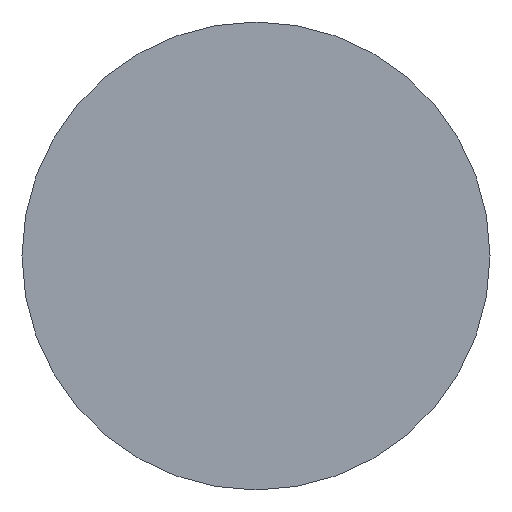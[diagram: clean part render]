
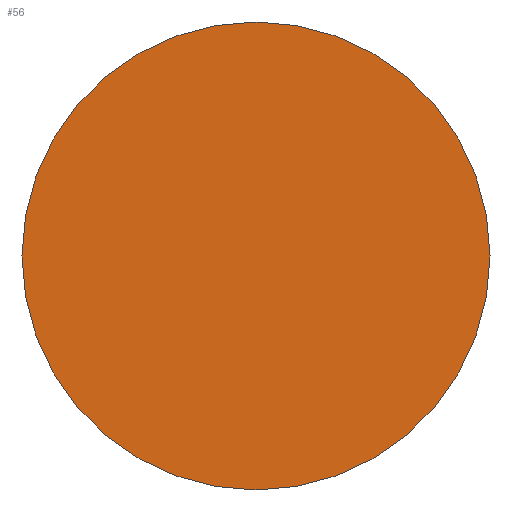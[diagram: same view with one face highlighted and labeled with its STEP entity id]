
A CAD part, top view. The second image highlights one B-rep face of the part: STEP entity #56.
In plain terms, the highlighted planar face has unit normal (0, 0, 1).
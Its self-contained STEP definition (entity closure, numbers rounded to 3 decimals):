
#56=ADVANCED_FACE('',(#118),#119,.T.);
#118=FACE_OUTER_BOUND('',#199,.T.);
#119=PLANE('',#200);
#199=EDGE_LOOP('',(#294));
#200=AXIS2_PLACEMENT_3D('',#295,#296,#297);
#294=ORIENTED_EDGE('',*,*,#328,.F.);
#295=CARTESIAN_POINT('',(-11.781,0.0,0.));
#296=DIRECTION('',(0.,0.,1.0));
#297=DIRECTION('',(1.0,0.,0.));
#328=EDGE_CURVE('',#362,#362,#363,.T.);
#362=VERTEX_POINT('',#406);
#363=CIRCLE('',#407,23.563);
#406=CARTESIAN_POINT('',(-23.563,0.,0.));
#407=AXIS2_PLACEMENT_3D('',#450,#451,#452);
#450=CARTESIAN_POINT('',(0.0,0.0,0.0));
#451=DIRECTION('',(0.,0.,-1.0));
#452=DIRECTION('',(-1.0,0.,0.));
